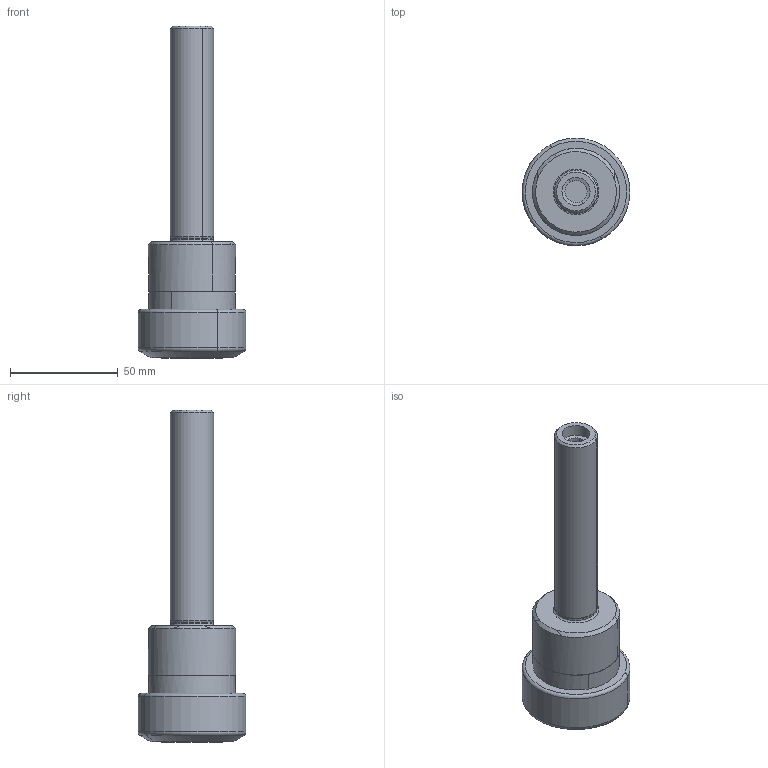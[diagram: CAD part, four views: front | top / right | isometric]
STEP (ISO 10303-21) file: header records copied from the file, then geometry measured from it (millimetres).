
FILE_DESCRIPTION(('CATIA V5 STEP','CAx-IF Rec.Pracs.--- Model Styling and Organization---1.2---2011-12-15'),'2;1');
FILE_NAME('\\nas01\drv1\utils\eitdev\rte\eit\transmagicconvert\db\out\635962238785264832\4508014 LM.stp','2016-04-14T06:44:51+00:00',('none'),('none'),'CATIA Version 5 Release 21 SP 5 (IN-10)','CATIA V5 STEP AP214','none');
FILE_SCHEMA(('AUTOMOTIVE_DESIGN { 1 0 10303 214 1 1 1 1 }'));
Length unit declared in the file: millimetre
Products named in the file (1): ST 20X100 ER32
Bounding box: 49.99 x 49.99 x 154.03 mm (x, y, z)
Volume: 83153.8 mm3; surface area: 21789.1 mm2
Topology: 1 solids, 1 shells, 57 faces, 126 edges, 76 vertices
Faces by surface type: cylinder 20, cone 18, torus 10, plane 7, extrusion 2
Entity records: 1821 total; most frequent: CARTESIAN_POINT 532, ORIENTED_EDGE 252, DIRECTION 216, EDGE_CURVE 126, AXIS2_PLACEMENT_3D 124, VERTEX_POINT 76, CIRCLE 68, EDGE_LOOP 62
